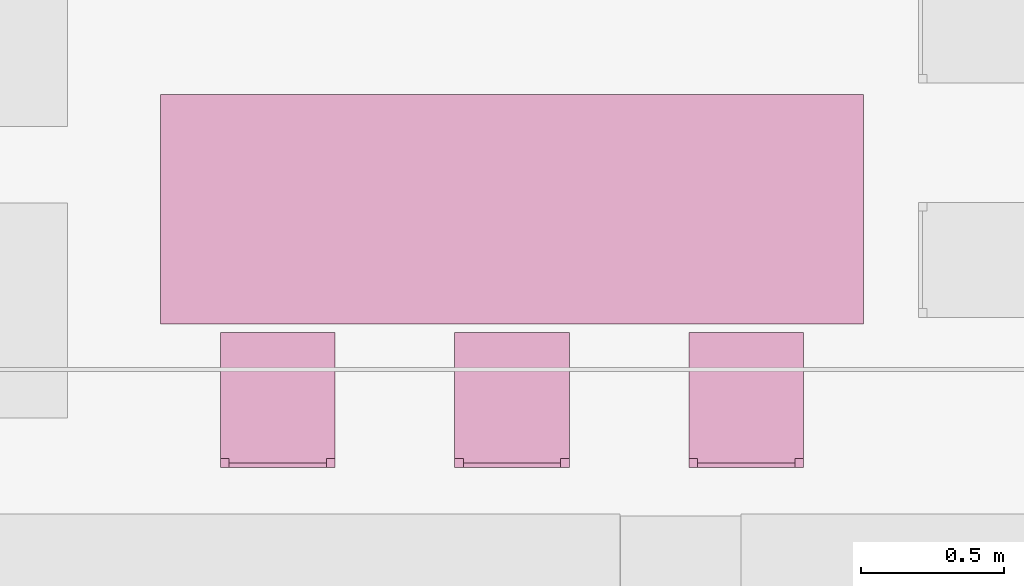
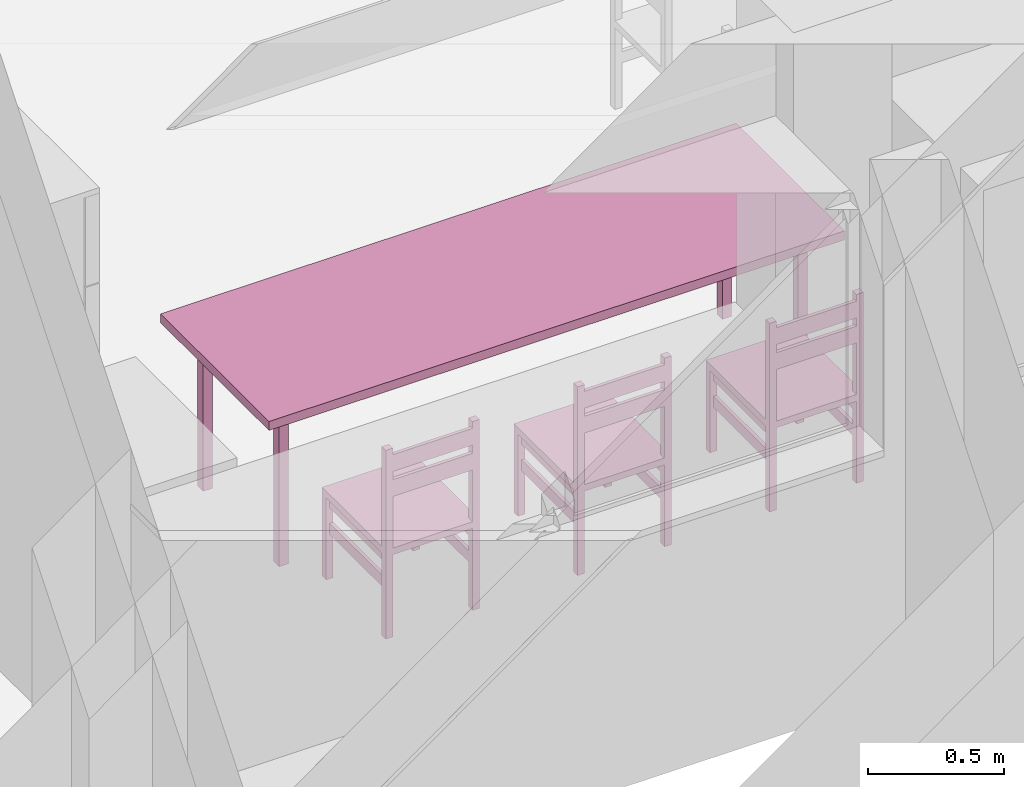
# One storey, part 107 of 127: 1 furnishing.
"""IFC2X3 building model written with IfcOpenShell, lengths in millimetres."""

from ifc_helpers import new_model, entity, si_unit, converted_unit, derived_unit, money_unit, direction, frame, origin_with_axes, place, context, subcontext, project, spatial, faceted_brep, type_object, element, save


model = new_model("IFC2X3")

# Units and contexts
model_context = context("Model", 3, precision=1e-05, world=origin_with_axes(), true_north=direction((0.0, 1.0)))
body_context = subcontext(model_context, "Body", "Model", "MODEL_VIEW")
ifc_project = project(units=[si_unit("LENGTHUNIT", "METRE", prefix="MILLI"), si_unit("AREAUNIT", "SQUARE_METRE"), si_unit("VOLUMEUNIT", "CUBIC_METRE"), converted_unit("PLANEANGLEUNIT", "DEGREE", entity("IfcPlaneAngleMeasure", 0.0174532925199), si_unit("PLANEANGLEUNIT", "RADIAN"), dimensions=[0, 0, 0, 0, 0, 0, 0]), si_unit("SOLIDANGLEUNIT", "STERADIAN"), money_unit("EUR"), converted_unit("TIMEUNIT", "Year", entity("IfcTimeMeasure", 31556926.0), si_unit("TIMEUNIT", "SECOND"), dimensions=[0, 0, 1, 0, 0, 0, 0]), si_unit("MASSUNIT", "GRAM", prefix="KILO"), si_unit("THERMODYNAMICTEMPERATUREUNIT", "DEGREE_CELSIUS"), si_unit("LUMINOUSINTENSITYUNIT", "LUMEN"), si_unit("ENERGYUNIT", "JOULE", prefix="MEGA"), derived_unit("THERMALCONDUCTANCEUNIT", [(si_unit("POWERUNIT", "WATT"), 1), (si_unit("LENGTHUNIT", "METRE"), -1), (si_unit("THERMODYNAMICTEMPERATUREUNIT", "KELVIN"), -1)]), derived_unit("SPECIFICHEATCAPACITYUNIT", [(si_unit("ENERGYUNIT", "JOULE"), 1), (si_unit("MASSUNIT", "GRAM", prefix="KILO"), -1), (si_unit("THERMODYNAMICTEMPERATUREUNIT", "KELVIN"), -1)]), derived_unit("MASSDENSITYUNIT", [(si_unit("MASSUNIT", "GRAM", prefix="KILO"), 1), (si_unit("VOLUMEUNIT", "CUBIC_METRE"), -1)])], contexts=[model_context])

# Site, building, storey
site_placement = place(None, origin_with_axes())
site = spatial("IfcSite", under=ifc_project, at=site_placement, Name="Site", CompositionType="ELEMENT")
building_placement = place(site_placement, origin_with_axes())
building = spatial("IfcBuilding", under=site, at=building_placement, Name="Building", CompositionType="ELEMENT")
storey_placement = place(building_placement, origin_with_axes())
storey = spatial("IfcBuildingStorey", under=building, at=storey_placement, Name="1 KORRUS", CompositionType="ELEMENT", Elevation=0.0)

# Furnishing
furnishing_element_type = type_object("IfcFurnishingElementType", Name="Model Element 11")
furnishing_placement = place(storey_placement, frame((57356.7208443, 36252.2154991, 0.0), z_axis=(0.0, 0.0, 1.0), x_axis=(1.0, 0.0, 0.0)))
element("IfcFurnishingElement", 1, at=furnishing_placement, inside=storey, type_object=furnishing_element_type, Name="FU - 008", context=body_context, shape_type="Brep", body=[
    faceted_brep([(-1225.58169808, -400.0, 710.0), (1225.58169808, -400.0, 710.0), (1225.58169808, -400.0, 750.0), (-1225.58169808, -400.0, 750.0), (-1225.58169808, 400.0, 710.0), (1225.58169808, 400.0, 710.0), (1225.58169808, 400.0, 750.0), (-1225.58169808, 400.0, 750.0)], [[[0, 1, 2, 3]], [[0, 4, 5, 1]], [[1, 5, 6, 2]], [[3, 2, 6, 7]], [[4, 0, 3, 7]], [[5, 4, 7, 6]]]),
    faceted_brep([(-1085.58169808, -300.0, 0.0), (-1125.58169808, -300.0, 0.0), (-1125.58169808, -260.0, 0.0), (-1085.58169808, -260.0, 0.0), (-1085.58169808, -300.0, 710.0), (-1125.58169808, -300.0, 710.0), (-1125.58169808, -260.0, 710.0), (-1085.58169808, -260.0, 710.0)], [[[0, 1, 2, 3]], [[1, 0, 4, 5]], [[2, 1, 5, 6]], [[3, 2, 6, 7]], [[0, 3, 7, 4]], [[5, 4, 7, 6]]]),
    faceted_brep([(1125.58169808, -300.0, 0.0), (1085.58169808, -300.0, 0.0), (1085.58169808, -260.0, 0.0), (1125.58169808, -260.0, 0.0), (1125.58169808, -300.0, 710.0), (1085.58169808, -300.0, 710.0), (1085.58169808, -260.0, 710.0), (1125.58169808, -260.0, 710.0)], [[[0, 1, 2, 3]], [[1, 0, 4, 5]], [[2, 1, 5, 6]], [[3, 2, 6, 7]], [[0, 3, 7, 4]], [[5, 4, 7, 6]]]),
    faceted_brep([(1125.58169808, 260.0, 0.0), (1085.58169808, 260.0, 0.0), (1085.58169808, 300.0, 0.0), (1125.58169808, 300.0, 0.0), (1125.58169808, 260.0, 710.0), (1085.58169808, 260.0, 710.0), (1085.58169808, 300.0, 710.0), (1125.58169808, 300.0, 710.0)], [[[0, 1, 2, 3]], [[1, 0, 4, 5]], [[2, 1, 5, 6]], [[3, 2, 6, 7]], [[0, 3, 7, 4]], [[5, 4, 7, 6]]]),
    faceted_brep([(-1085.58169808, 260.0, 0.0), (-1125.58169808, 260.0, 0.0), (-1125.58169808, 300.0, 0.0), (-1085.58169808, 300.0, 0.0), (-1085.58169808, 260.0, 710.0), (-1125.58169808, 260.0, 710.0), (-1125.58169808, 300.0, 710.0), (-1085.58169808, 300.0, 710.0)], [[[0, 1, 2, 3]], [[1, 0, 4, 5]], [[2, 1, 5, 6]], [[3, 2, 6, 7]], [[0, 3, 7, 4]], [[5, 4, 7, 6]]]),
    faceted_brep([(-1085.58169808, -290.0, 660.0), (1085.58169808, -290.0, 660.0), (1085.58169808, -290.0, 710.0), (-1085.58169808, -290.0, 710.0), (-1085.58169808, -270.0, 660.0), (1085.58169808, -270.0, 660.0), (1085.58169808, -270.0, 710.0), (-1085.58169808, -270.0, 710.0)], [[[0, 1, 2, 3]], [[0, 4, 5, 1]], [[1, 5, 6, 2]], [[3, 2, 6, 7]], [[4, 0, 3, 7]], [[5, 4, 7, 6]]]),
    faceted_brep([(-1085.58169808, 270.0, 660.0), (1085.58169808, 270.0, 660.0), (1085.58169808, 270.0, 710.0), (-1085.58169808, 270.0, 710.0), (-1085.58169808, 290.0, 660.0), (1085.58169808, 290.0, 660.0), (1085.58169808, 290.0, 710.0), (-1085.58169808, 290.0, 710.0)], [[[0, 1, 2, 3]], [[0, 4, 5, 1]], [[1, 5, 6, 2]], [[3, 2, 6, 7]], [[4, 0, 3, 7]], [[5, 4, 7, 6]]]),
    faceted_brep([(-1115.58169808, -260.0, 660.0), (-1095.58169808, -260.0, 660.0), (-1095.58169808, -260.0, 710.0), (-1115.58169808, -260.0, 710.0), (-1115.58169808, 260.0, 660.0), (-1095.58169808, 260.0, 660.0), (-1095.58169808, 260.0, 710.0), (-1115.58169808, 260.0, 710.0)], [[[0, 1, 2, 3]], [[0, 4, 5, 1]], [[1, 5, 6, 2]], [[3, 2, 6, 7]], [[4, 0, 3, 7]], [[5, 4, 7, 6]]]),
    faceted_brep([(1095.58169808, -260.0, 660.0), (1115.58169808, -260.0, 660.0), (1115.58169808, -260.0, 710.0), (1095.58169808, -260.0, 710.0), (1095.58169808, 260.0, 660.0), (1115.58169808, 260.0, 660.0), (1115.58169808, 260.0, 710.0), (1095.58169808, 260.0, 710.0)], [[[0, 1, 2, 3]], [[0, 4, 5, 1]], [[1, 5, 6, 2]], [[3, 2, 6, 7]], [[4, 0, 3, 7]], [[5, 4, 7, 6]]]),
    faceted_brep([(-647.054465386, -900.0, 370.0), (-647.054465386, -870.0, 370.0), (-647.054465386, -870.0, 400.0), (-647.054465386, -900.0, 400.0), (-987.054465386, -900.0, 370.0), (-987.054465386, -870.0, 370.0), (-1017.05446539, -870.0, 370.0), (-1017.05446539, -430.0, 370.0), (-617.054465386, -430.0, 370.0), (-617.054465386, -870.0, 370.0), (-617.054465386, -870.0, 400.0), (-617.054465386, -430.0, 400.0), (-1017.05446539, -430.0, 400.0), (-1017.05446539, -870.0, 400.0), (-987.054465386, -870.0, 400.0), (-987.054465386, -900.0, 400.0)], [[[0, 1, 2, 3]], [[0, 4, 5, 6, 7, 8, 9, 1]], [[1, 9, 10, 2]], [[3, 2, 10, 11, 12, 13, 14, 15]], [[4, 0, 3, 15]], [[5, 4, 15, 14]], [[6, 5, 14, 13]], [[7, 6, 13, 12]], [[8, 7, 12, 11]], [[9, 8, 11, 10]]]),
    faceted_brep([(-987.054465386, -900.0, 0.0), (-1017.05446539, -900.0, 0.0), (-1017.05446539, -870.0, 0.0), (-987.054465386, -870.0, 0.0), (-987.054465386, -900.0, 850.0), (-1017.05446539, -900.0, 850.0), (-1017.05446539, -870.0, 850.0), (-987.054465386, -870.0, 850.0)], [[[0, 1, 2, 3]], [[1, 0, 4, 5]], [[2, 1, 5, 6]], [[3, 2, 6, 7]], [[0, 3, 7, 4]], [[5, 4, 7, 6]]]),
    faceted_brep([(-987.054465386, -460.0, 0.0), (-1017.05446539, -460.0, 0.0), (-1017.05446539, -430.0, 0.0), (-987.054465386, -430.0, 0.0), (-987.054465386, -460.0, 370.0), (-1017.05446539, -460.0, 370.0), (-1017.05446539, -430.0, 370.0), (-987.054465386, -430.0, 370.0)], [[[0, 1, 2, 3]], [[1, 0, 4, 5]], [[2, 1, 5, 6]], [[3, 2, 6, 7]], [[0, 3, 7, 4]], [[5, 4, 7, 6]]]),
    faceted_brep([(-647.054465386, -900.0, 0.0), (-647.054465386, -870.0, 0.0), (-617.054465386, -870.0, 0.0), (-617.054465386, -900.0, 0.0), (-647.054465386, -900.0, 850.0), (-647.054465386, -870.0, 850.0), (-617.054465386, -870.0, 850.0), (-617.054465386, -900.0, 850.0)], [[[0, 1, 2, 3]], [[0, 4, 5, 1]], [[1, 5, 6, 2]], [[2, 6, 7, 3]], [[3, 7, 4, 0]], [[7, 6, 5, 4]]]),
    faceted_brep([(-647.054465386, -460.0, 0.0), (-647.054465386, -430.0, 0.0), (-617.054465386, -430.0, 0.0), (-617.054465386, -460.0, 0.0), (-647.054465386, -460.0, 370.0), (-647.054465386, -430.0, 370.0), (-617.054465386, -430.0, 370.0), (-617.054465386, -460.0, 370.0)], [[[0, 1, 2, 3]], [[0, 4, 5, 1]], [[1, 5, 6, 2]], [[2, 6, 7, 3]], [[3, 7, 4, 0]], [[7, 6, 5, 4]]]),
    faceted_brep([(-987.054465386, -870.0, 320.0), (-1002.05446539, -870.0, 320.0), (-1002.05446539, -460.0, 320.0), (-987.054465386, -460.0, 320.0), (-987.054465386, -870.0, 370.0), (-1002.05446539, -870.0, 370.0), (-1002.05446539, -460.0, 370.0), (-987.054465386, -460.0, 370.0)], [[[0, 1, 2, 3]], [[1, 0, 4, 5]], [[2, 1, 5, 6]], [[3, 2, 6, 7]], [[0, 3, 7, 4]], [[5, 4, 7, 6]]]),
    faceted_brep([(-987.054465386, -870.0, 200.0), (-1002.05446539, -870.0, 200.0), (-1002.05446539, -460.0, 200.0), (-987.054465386, -460.0, 200.0), (-987.054465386, -870.0, 250.0), (-1002.05446539, -870.0, 250.0), (-1002.05446539, -460.0, 250.0), (-987.054465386, -460.0, 250.0)], [[[0, 1, 2, 3]], [[1, 0, 4, 5]], [[2, 1, 5, 6]], [[3, 2, 6, 7]], [[0, 3, 7, 4]], [[5, 4, 7, 6]]]),
    faceted_brep([(-647.054465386, -870.0, 320.0), (-647.054465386, -460.0, 320.0), (-632.054465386, -460.0, 320.0), (-632.054465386, -870.0, 320.0), (-647.054465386, -870.0, 370.0), (-647.054465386, -460.0, 370.0), (-632.054465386, -460.0, 370.0), (-632.054465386, -870.0, 370.0)], [[[0, 1, 2, 3]], [[0, 4, 5, 1]], [[1, 5, 6, 2]], [[2, 6, 7, 3]], [[3, 7, 4, 0]], [[7, 6, 5, 4]]]),
    faceted_brep([(-647.054465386, -870.0, 200.0), (-647.054465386, -460.0, 200.0), (-632.054465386, -460.0, 200.0), (-632.054465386, -870.0, 200.0), (-647.054465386, -870.0, 250.0), (-647.054465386, -460.0, 250.0), (-632.054465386, -460.0, 250.0), (-632.054465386, -870.0, 250.0)], [[[0, 1, 2, 3]], [[0, 4, 5, 1]], [[1, 5, 6, 2]], [[2, 6, 7, 3]], [[3, 7, 4, 0]], [[7, 6, 5, 4]]]),
    faceted_brep([(-647.054465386, -900.0, 745.0), (-987.054465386, -900.0, 745.0), (-987.054465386, -885.0, 745.0), (-647.054465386, -885.0, 745.0), (-647.054465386, -900.0, 820.0), (-987.054465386, -900.0, 820.0), (-987.054465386, -885.0, 820.0), (-647.054465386, -885.0, 820.0)], [[[0, 1, 2, 3]], [[1, 0, 4, 5]], [[2, 1, 5, 6]], [[3, 2, 6, 7]], [[0, 3, 7, 4]], [[5, 4, 7, 6]]]),
    faceted_brep([(-647.054465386, -900.0, 632.5), (-987.054465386, -900.0, 632.5), (-987.054465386, -885.0, 632.5), (-647.054465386, -885.0, 632.5), (-647.054465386, -900.0, 707.5), (-987.054465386, -900.0, 707.5), (-987.054465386, -885.0, 707.5), (-647.054465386, -885.0, 707.5)], [[[0, 1, 2, 3]], [[1, 0, 4, 5]], [[2, 1, 5, 6]], [[3, 2, 6, 7]], [[0, 3, 7, 4]], [[5, 4, 7, 6]]]),
    faceted_brep([(170.0, -900.0, 370.0), (170.0, -870.0, 370.0), (170.0, -870.0, 400.0), (170.0, -900.0, 400.0), (-170.0, -900.0, 370.0), (-170.0, -870.0, 370.0), (-200.0, -870.0, 370.0), (-200.0, -430.0, 370.0), (200.0, -430.0, 370.0), (200.0, -870.0, 370.0), (200.0, -870.0, 400.0), (200.0, -430.0, 400.0), (-200.0, -430.0, 400.0), (-200.0, -870.0, 400.0), (-170.0, -870.0, 400.0), (-170.0, -900.0, 400.0)], [[[0, 1, 2, 3]], [[0, 4, 5, 6, 7, 8, 9, 1]], [[1, 9, 10, 2]], [[3, 2, 10, 11, 12, 13, 14, 15]], [[4, 0, 3, 15]], [[5, 4, 15, 14]], [[6, 5, 14, 13]], [[7, 6, 13, 12]], [[8, 7, 12, 11]], [[9, 8, 11, 10]]]),
    faceted_brep([(-170.0, -900.0, 0.0), (-200.0, -900.0, 0.0), (-200.0, -870.0, 0.0), (-170.0, -870.0, 0.0), (-170.0, -900.0, 850.0), (-200.0, -900.0, 850.0), (-200.0, -870.0, 850.0), (-170.0, -870.0, 850.0)], [[[0, 1, 2, 3]], [[1, 0, 4, 5]], [[2, 1, 5, 6]], [[3, 2, 6, 7]], [[0, 3, 7, 4]], [[5, 4, 7, 6]]]),
    faceted_brep([(-170.0, -460.0, 0.0), (-200.0, -460.0, 0.0), (-200.0, -430.0, 0.0), (-170.0, -430.0, 0.0), (-170.0, -460.0, 370.0), (-200.0, -460.0, 370.0), (-200.0, -430.0, 370.0), (-170.0, -430.0, 370.0)], [[[0, 1, 2, 3]], [[1, 0, 4, 5]], [[2, 1, 5, 6]], [[3, 2, 6, 7]], [[0, 3, 7, 4]], [[5, 4, 7, 6]]]),
    faceted_brep([(170.0, -900.0, 0.0), (170.0, -870.0, 0.0), (200.0, -870.0, 0.0), (200.0, -900.0, 0.0), (170.0, -900.0, 850.0), (170.0, -870.0, 850.0), (200.0, -870.0, 850.0), (200.0, -900.0, 850.0)], [[[0, 1, 2, 3]], [[0, 4, 5, 1]], [[1, 5, 6, 2]], [[2, 6, 7, 3]], [[3, 7, 4, 0]], [[7, 6, 5, 4]]]),
    faceted_brep([(170.0, -460.0, 0.0), (170.0, -430.0, 0.0), (200.0, -430.0, 0.0), (200.0, -460.0, 0.0), (170.0, -460.0, 370.0), (170.0, -430.0, 370.0), (200.0, -430.0, 370.0), (200.0, -460.0, 370.0)], [[[0, 1, 2, 3]], [[0, 4, 5, 1]], [[1, 5, 6, 2]], [[2, 6, 7, 3]], [[3, 7, 4, 0]], [[7, 6, 5, 4]]]),
    faceted_brep([(-170.0, -870.0, 320.0), (-185.0, -870.0, 320.0), (-185.0, -460.0, 320.0), (-170.0, -460.0, 320.0), (-170.0, -870.0, 370.0), (-185.0, -870.0, 370.0), (-185.0, -460.0, 370.0), (-170.0, -460.0, 370.0)], [[[0, 1, 2, 3]], [[1, 0, 4, 5]], [[2, 1, 5, 6]], [[3, 2, 6, 7]], [[0, 3, 7, 4]], [[5, 4, 7, 6]]]),
    faceted_brep([(-170.0, -870.0, 200.0), (-185.0, -870.0, 200.0), (-185.0, -460.0, 200.0), (-170.0, -460.0, 200.0), (-170.0, -870.0, 250.0), (-185.0, -870.0, 250.0), (-185.0, -460.0, 250.0), (-170.0, -460.0, 250.0)], [[[0, 1, 2, 3]], [[1, 0, 4, 5]], [[2, 1, 5, 6]], [[3, 2, 6, 7]], [[0, 3, 7, 4]], [[5, 4, 7, 6]]]),
    faceted_brep([(170.0, -870.0, 320.0), (170.0, -460.0, 320.0), (185.0, -460.0, 320.0), (185.0, -870.0, 320.0), (170.0, -870.0, 370.0), (170.0, -460.0, 370.0), (185.0, -460.0, 370.0), (185.0, -870.0, 370.0)], [[[0, 1, 2, 3]], [[0, 4, 5, 1]], [[1, 5, 6, 2]], [[2, 6, 7, 3]], [[3, 7, 4, 0]], [[7, 6, 5, 4]]]),
    faceted_brep([(170.0, -870.0, 200.0), (170.0, -460.0, 200.0), (185.0, -460.0, 200.0), (185.0, -870.0, 200.0), (170.0, -870.0, 250.0), (170.0, -460.0, 250.0), (185.0, -460.0, 250.0), (185.0, -870.0, 250.0)], [[[0, 1, 2, 3]], [[0, 4, 5, 1]], [[1, 5, 6, 2]], [[2, 6, 7, 3]], [[3, 7, 4, 0]], [[7, 6, 5, 4]]]),
    faceted_brep([(170.0, -900.0, 745.0), (-170.0, -900.0, 745.0), (-170.0, -885.0, 745.0), (170.0, -885.0, 745.0), (170.0, -900.0, 820.0), (-170.0, -900.0, 820.0), (-170.0, -885.0, 820.0), (170.0, -885.0, 820.0)], [[[0, 1, 2, 3]], [[1, 0, 4, 5]], [[2, 1, 5, 6]], [[3, 2, 6, 7]], [[0, 3, 7, 4]], [[5, 4, 7, 6]]]),
    faceted_brep([(170.0, -900.0, 632.5), (-170.0, -900.0, 632.5), (-170.0, -885.0, 632.5), (170.0, -885.0, 632.5), (170.0, -900.0, 707.5), (-170.0, -900.0, 707.5), (-170.0, -885.0, 707.5), (170.0, -885.0, 707.5)], [[[0, 1, 2, 3]], [[1, 0, 4, 5]], [[2, 1, 5, 6]], [[3, 2, 6, 7]], [[0, 3, 7, 4]], [[5, 4, 7, 6]]]),
    faceted_brep([(987.054465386, -900.0, 370.0), (987.054465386, -870.0, 370.0), (987.054465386, -870.0, 400.0), (987.054465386, -900.0, 400.0), (647.054465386, -900.0, 370.0), (647.054465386, -870.0, 370.0), (617.054465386, -870.0, 370.0), (617.054465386, -430.0, 370.0), (1017.05446539, -430.0, 370.0), (1017.05446539, -870.0, 370.0), (1017.05446539, -870.0, 400.0), (1017.05446539, -430.0, 400.0), (617.054465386, -430.0, 400.0), (617.054465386, -870.0, 400.0), (647.054465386, -870.0, 400.0), (647.054465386, -900.0, 400.0)], [[[0, 1, 2, 3]], [[0, 4, 5, 6, 7, 8, 9, 1]], [[1, 9, 10, 2]], [[3, 2, 10, 11, 12, 13, 14, 15]], [[4, 0, 3, 15]], [[5, 4, 15, 14]], [[6, 5, 14, 13]], [[7, 6, 13, 12]], [[8, 7, 12, 11]], [[9, 8, 11, 10]]]),
    faceted_brep([(647.054465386, -900.0, 0.0), (617.054465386, -900.0, 0.0), (617.054465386, -870.0, 0.0), (647.054465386, -870.0, 0.0), (647.054465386, -900.0, 850.0), (617.054465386, -900.0, 850.0), (617.054465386, -870.0, 850.0), (647.054465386, -870.0, 850.0)], [[[0, 1, 2, 3]], [[1, 0, 4, 5]], [[2, 1, 5, 6]], [[3, 2, 6, 7]], [[0, 3, 7, 4]], [[5, 4, 7, 6]]]),
    faceted_brep([(647.054465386, -460.0, 0.0), (617.054465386, -460.0, 0.0), (617.054465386, -430.0, 0.0), (647.054465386, -430.0, 0.0), (647.054465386, -460.0, 370.0), (617.054465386, -460.0, 370.0), (617.054465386, -430.0, 370.0), (647.054465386, -430.0, 370.0)], [[[0, 1, 2, 3]], [[1, 0, 4, 5]], [[2, 1, 5, 6]], [[3, 2, 6, 7]], [[0, 3, 7, 4]], [[5, 4, 7, 6]]]),
    faceted_brep([(987.054465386, -900.0, 0.0), (987.054465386, -870.0, 0.0), (1017.05446539, -870.0, 0.0), (1017.05446539, -900.0, 0.0), (987.054465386, -900.0, 850.0), (987.054465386, -870.0, 850.0), (1017.05446539, -870.0, 850.0), (1017.05446539, -900.0, 850.0)], [[[0, 1, 2, 3]], [[0, 4, 5, 1]], [[1, 5, 6, 2]], [[2, 6, 7, 3]], [[3, 7, 4, 0]], [[7, 6, 5, 4]]]),
    faceted_brep([(987.054465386, -460.0, 0.0), (987.054465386, -430.0, 0.0), (1017.05446539, -430.0, 0.0), (1017.05446539, -460.0, 0.0), (987.054465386, -460.0, 370.0), (987.054465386, -430.0, 370.0), (1017.05446539, -430.0, 370.0), (1017.05446539, -460.0, 370.0)], [[[0, 1, 2, 3]], [[0, 4, 5, 1]], [[1, 5, 6, 2]], [[2, 6, 7, 3]], [[3, 7, 4, 0]], [[7, 6, 5, 4]]]),
    faceted_brep([(647.054465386, -870.0, 320.0), (632.054465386, -870.0, 320.0), (632.054465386, -460.0, 320.0), (647.054465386, -460.0, 320.0), (647.054465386, -870.0, 370.0), (632.054465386, -870.0, 370.0), (632.054465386, -460.0, 370.0), (647.054465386, -460.0, 370.0)], [[[0, 1, 2, 3]], [[1, 0, 4, 5]], [[2, 1, 5, 6]], [[3, 2, 6, 7]], [[0, 3, 7, 4]], [[5, 4, 7, 6]]]),
    faceted_brep([(647.054465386, -870.0, 200.0), (632.054465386, -870.0, 200.0), (632.054465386, -460.0, 200.0), (647.054465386, -460.0, 200.0), (647.054465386, -870.0, 250.0), (632.054465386, -870.0, 250.0), (632.054465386, -460.0, 250.0), (647.054465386, -460.0, 250.0)], [[[0, 1, 2, 3]], [[1, 0, 4, 5]], [[2, 1, 5, 6]], [[3, 2, 6, 7]], [[0, 3, 7, 4]], [[5, 4, 7, 6]]]),
    faceted_brep([(987.054465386, -870.0, 320.0), (987.054465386, -460.0, 320.0), (1002.05446539, -460.0, 320.0), (1002.05446539, -870.0, 320.0), (987.054465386, -870.0, 370.0), (987.054465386, -460.0, 370.0), (1002.05446539, -460.0, 370.0), (1002.05446539, -870.0, 370.0)], [[[0, 1, 2, 3]], [[0, 4, 5, 1]], [[1, 5, 6, 2]], [[2, 6, 7, 3]], [[3, 7, 4, 0]], [[7, 6, 5, 4]]]),
    faceted_brep([(987.054465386, -870.0, 200.0), (987.054465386, -460.0, 200.0), (1002.05446539, -460.0, 200.0), (1002.05446539, -870.0, 200.0), (987.054465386, -870.0, 250.0), (987.054465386, -460.0, 250.0), (1002.05446539, -460.0, 250.0), (1002.05446539, -870.0, 250.0)], [[[0, 1, 2, 3]], [[0, 4, 5, 1]], [[1, 5, 6, 2]], [[2, 6, 7, 3]], [[3, 7, 4, 0]], [[7, 6, 5, 4]]]),
    faceted_brep([(987.054465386, -900.0, 745.0), (647.054465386, -900.0, 745.0), (647.054465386, -885.0, 745.0), (987.054465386, -885.0, 745.0), (987.054465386, -900.0, 820.0), (647.054465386, -900.0, 820.0), (647.054465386, -885.0, 820.0), (987.054465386, -885.0, 820.0)], [[[0, 1, 2, 3]], [[1, 0, 4, 5]], [[2, 1, 5, 6]], [[3, 2, 6, 7]], [[0, 3, 7, 4]], [[5, 4, 7, 6]]]),
    faceted_brep([(987.054465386, -900.0, 632.5), (647.054465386, -900.0, 632.5), (647.054465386, -885.0, 632.5), (987.054465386, -885.0, 632.5), (987.054465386, -900.0, 707.5), (647.054465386, -900.0, 707.5), (647.054465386, -885.0, 707.5), (987.054465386, -885.0, 707.5)], [[[0, 1, 2, 3]], [[1, 0, 4, 5]], [[2, 1, 5, 6]], [[3, 2, 6, 7]], [[0, 3, 7, 4]], [[5, 4, 7, 6]]]),
])

save(model, "model.ifc")
